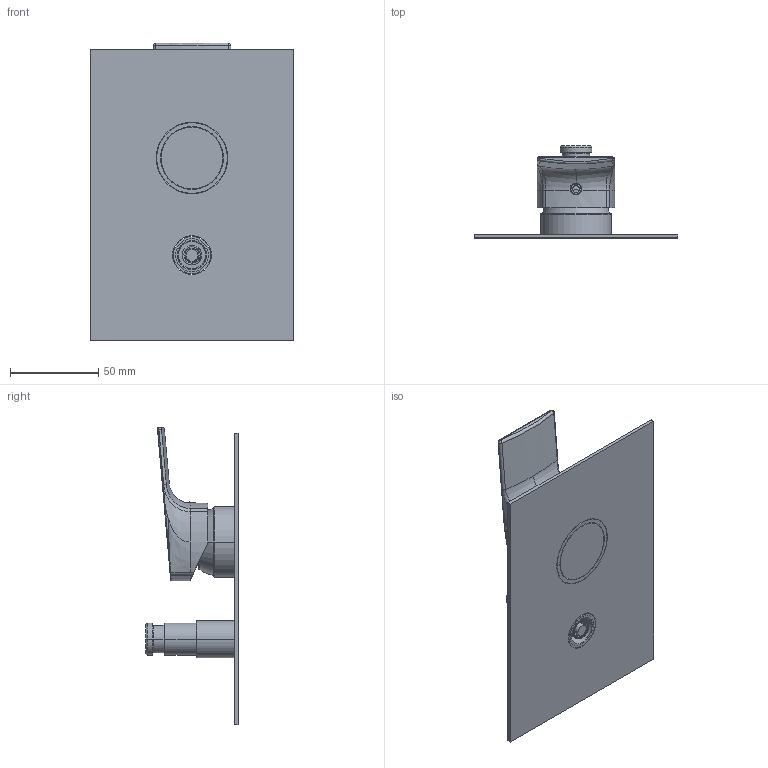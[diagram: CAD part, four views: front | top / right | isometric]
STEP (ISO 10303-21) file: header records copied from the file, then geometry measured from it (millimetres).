
FILE_DESCRIPTION((''),'2;1');
FILE_NAME('3D_SW0001','2024-10-08T09:08:34',('volponeff'),(''),'CREO PARAMETRIC BY PTC INC, 2022014','CREO PARAMETRIC BY PTC INC, 2022014','');
FILE_SCHEMA(('CONFIG_CONTROL_DESIGN'));
Length unit declared in the file: millimetre
Products named in the file (1): 3D_SW0001
Bounding box: 115 x 52.1 x 168.5 mm (x, y, z)
Surface area: 66592.1 mm2 (no closed solid volume)
Topology: 0 solids, 18 shells, 300 faces, 785 edges, 509 vertices
Faces by surface type: cylinder 105, plane 75, bspline 62, cone 29, torus 19, sphere 10
Entity records: 16292 total; most frequent: CARTESIAN_POINT 9383, ORIENTED_EDGE 1401, DIRECTION 1347, EDGE_CURVE 783, AXIS2_PLACEMENT_3D 530, VERTEX_POINT 509, EDGE_LOOP 325, FACE_OUTER_BOUND 300
